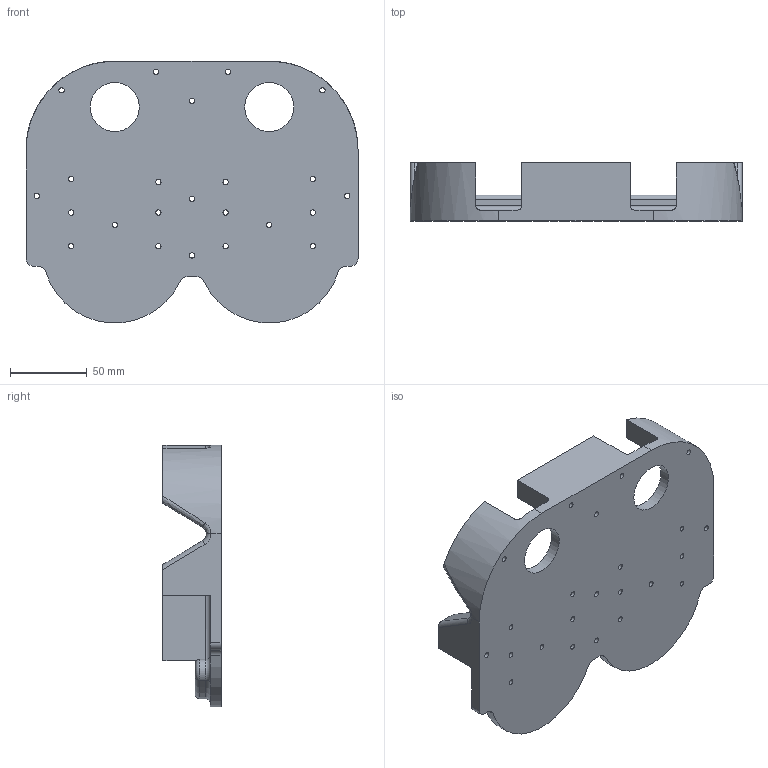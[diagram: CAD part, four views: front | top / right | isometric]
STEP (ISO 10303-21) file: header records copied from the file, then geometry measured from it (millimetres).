
FILE_DESCRIPTION(('STEP AP242 Edition 2','STEP AP242 Edition 2''CAx-IF Rec.Pracs.---Representation and Presentation of Product Manufacturing Information (PMI)---4.0---2014-10-13','STEP AP242 Edition 2''CAx-IF Rec.Pracs.---Representation and Presentation of Product Manufacturing Information (PMI)---4.0---2014-10-13''CAx-IF Rec.Pracs.---3D Tessellated Geometry---0.4---2014-09-14','STEP AP242 Edition 2''CAx-IF Rec.Pracs.---Representation and Presentation of Product Manufacturing Information (PMI)---4.0---2014-10-13''CAx-IF Rec.Pracs.---3D Tessellated Geometry---0.4---2014-09-14''2;1','STEP AP242 Edition 2''CAx-IF Rec.Pracs.---Representation and Presentation of Product Manufacturing Information (PMI)---4.0---2014-10-13''CAx-IF Rec.Pracs.---3D Tessellated Geometry---0.4---2014-09-14''2;1''CAx-IF Rec.Pracs.---User Defined Attributes---1.5---2016-08-15'),'2;1');
FILE_NAME('/vol/tmp/translate-3188717900275977620/gearBoxBot Copy 1 - Part 1.step','2026-03-05T22:38:44',(''),(''),'ST-DEVELOPER v20','ONSHAPE BY PTC INC, 1.211',' ');
FILE_SCHEMA(('AP242_MANAGED_MODEL_BASED_3D_ENGINEERING_MIM_LF { 1 0 10303 442 3 1 4 }'));
Length unit declared in the file: metre
Products named in the file (1): Part 1
Bounding box: 217 x 38 x 171.05 mm (x, y, z)
Volume: 385204.6 mm3; surface area: 100988.2 mm2
Topology: 1 solids, 1 shells, 157 faces, 377 edges, 242 vertices
Faces by surface type: cylinder 80, plane 57, torus 16, bspline 4
Full cylindrical faces by diameter (mm): 3.5 x23, 6 x4, 9.2 x14, 32 x2
Entity records: 4606 total; most frequent: CARTESIAN_POINT 868, DIRECTION 814, ORIENTED_EDGE 668, AXIS2_PLACEMENT_3D 344, EDGE_CURVE 334, EDGE_LOOP 270, FACE_BOUND 270, VERTEX_POINT 242
